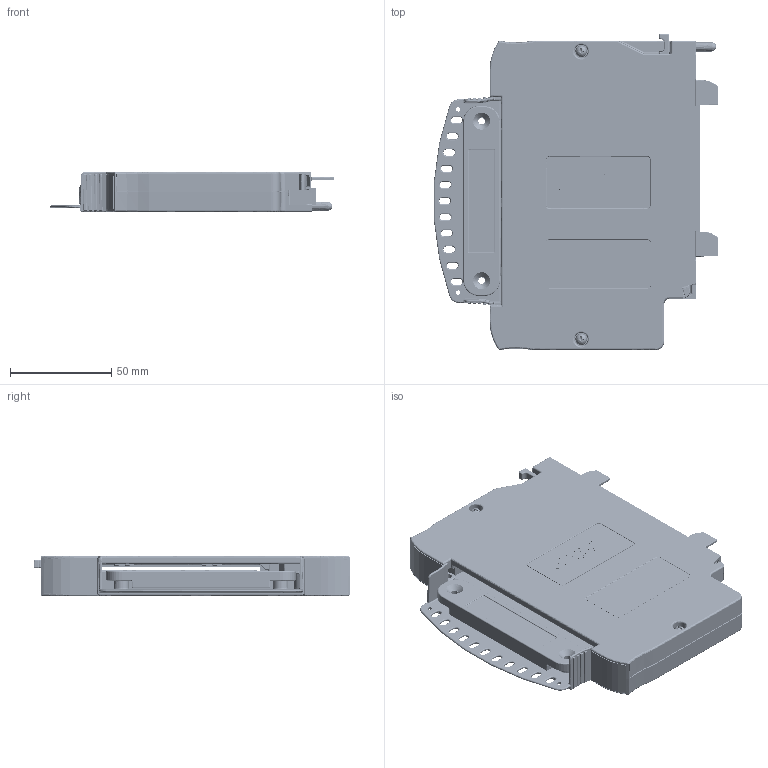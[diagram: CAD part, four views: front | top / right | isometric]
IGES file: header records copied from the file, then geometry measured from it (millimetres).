
Start section:  PTC IGES file: cu_tb-4302.igs
Global section: file name: cu_tb-4302.igs; native system: Creo Parametric by Parametric Technology Corporation; preprocessor: 2014000; author: dkendric; organization: Unknown; date: 20150805.124332; units: inch
Bounding box: 140.3 x 156.24 x 19.64 mm (x, y, z)
Surface area: 139477.8 mm2 (no closed solid volume)
Topology: 0 solids, 0 shells, 7953 faces, 39966 edges, 39910 vertices
Faces by surface type: bspline 4329, revolution 3557, extrusion 67
